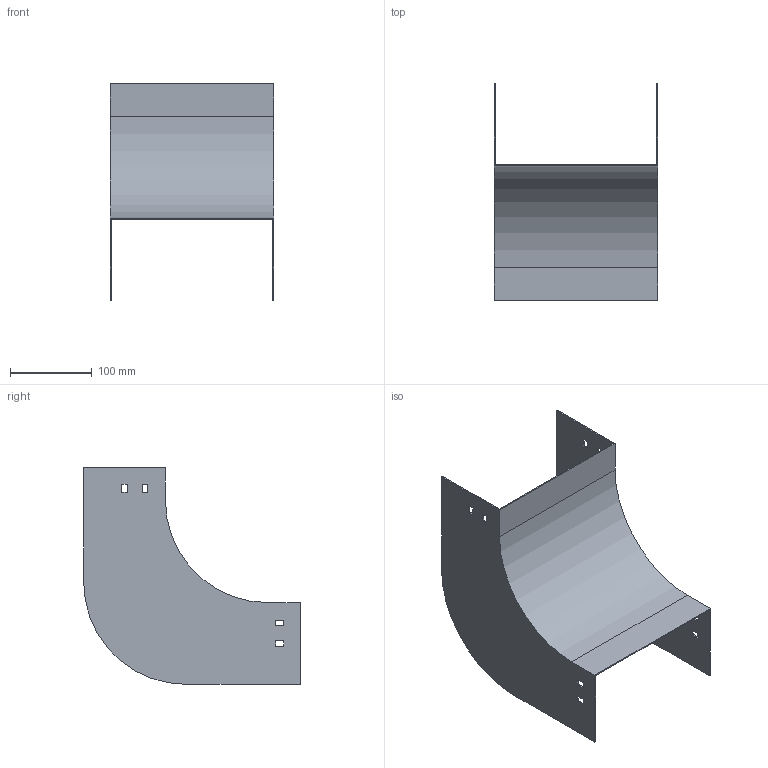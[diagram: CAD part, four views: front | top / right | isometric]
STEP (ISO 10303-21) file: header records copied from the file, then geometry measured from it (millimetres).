
FILE_DESCRIPTION (( 'STEP AP214' ), '1' );
FILE_NAME ('D9_201.step', '2025-07-16T09:08:36', ( '' ), ( '' ), 'SwSTEP 2.0', 'SolidWorks 2023', '' );
FILE_SCHEMA (( 'AUTOMOTIVE_DESIGN' ));
Length unit declared in the file: millimetre
Products named in the file (1): D9_201
Bounding box: 200 x 265 x 265 mm (x, y, z)
Volume: 210169.4 mm3; surface area: 283250.4 mm2
Topology: 1 solids, 1 shells, 50 faces, 144 edges, 96 vertices
Faces by surface type: plane 46, cylinder 4
Entity records: 1671 total; most frequent: CARTESIAN_POINT 291, ORIENTED_EDGE 288, DIRECTION 254, EDGE_CURVE 144, VECTOR 136, LINE 136, VERTEX_POINT 96, EDGE_LOOP 66
